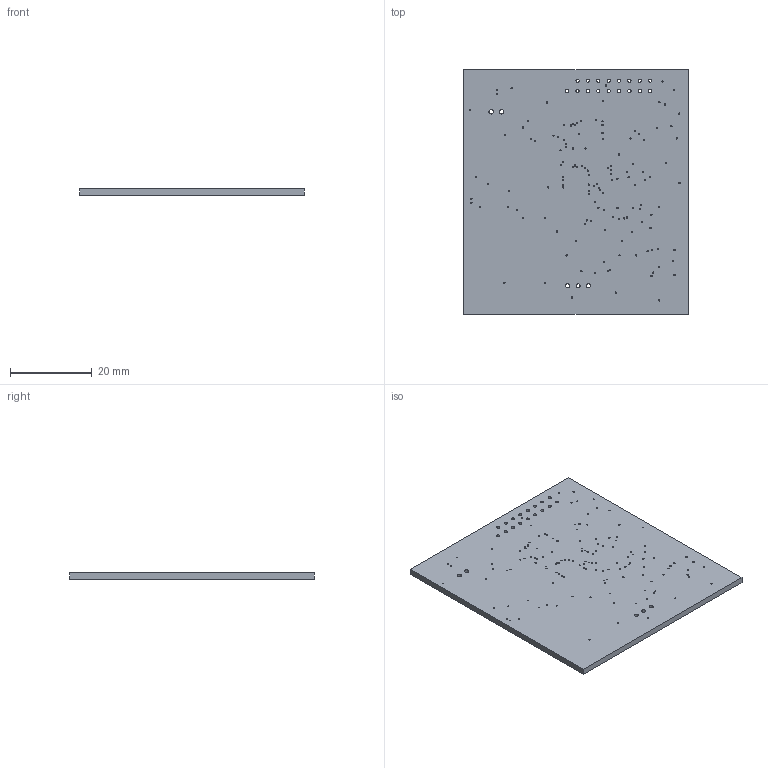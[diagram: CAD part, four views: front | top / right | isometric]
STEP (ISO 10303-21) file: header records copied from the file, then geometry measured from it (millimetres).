
FILE_DESCRIPTION(('KiCad electronic assembly'),'2;1');
FILE_NAME('Wheel-bare.step','2026-11-04T23:02:33',('Pcbnew'),('Kicad'), 'Open CASCADE STEP processor 7.9','KiCad to STEP converter','Unknown' );
FILE_SCHEMA(('AUTOMOTIVE_DESIGN { 1 0 10303 214 1 1 1 1 }'));
Length unit declared in the file: millimetre
Products named in the file (2): Wheel-bare 1; Wheel_PCB
Assembly tree (1 placements, depth 2):
  Wheel-bare 1
    Wheel_PCB
Bounding box: 55 x 60 x 1.51 mm (x, y, z)
Volume: 4949 mm3; surface area: 7186.5 mm2
Topology: 1 solids, 1 shells, 165 faces, 489 edges, 326 vertices
Faces by surface type: cylinder 159, plane 6
Full cylindrical faces by diameter (mm): 0.3 x137, 0.8 x17, 1 x3, 1.1 x2
Entity records: 6394 total; most frequent: DIRECTION 1141, CARTESIAN_POINT 982, ORIENTED_EDGE 978, EDGE_CURVE 489, AXIS2_PLACEMENT_3D 485, FACE_BOUND 483, EDGE_LOOP 483, VERTEX_POINT 326
